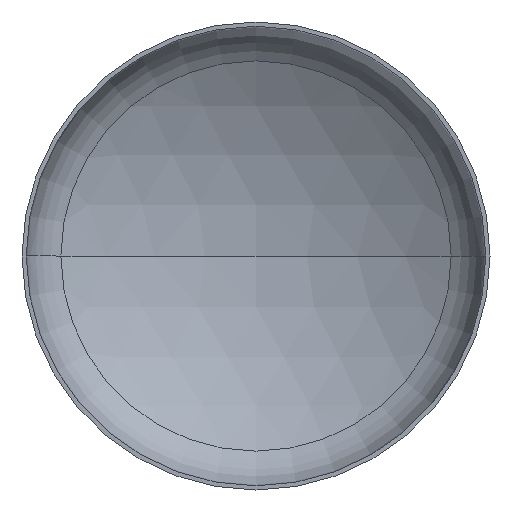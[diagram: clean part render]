
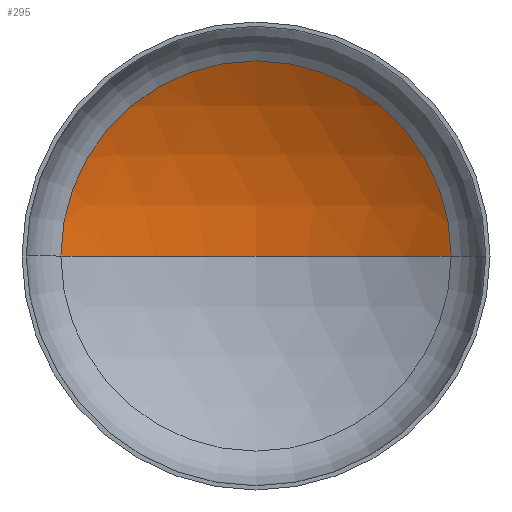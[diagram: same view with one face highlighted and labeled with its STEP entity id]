
A CAD part, front view. The second image highlights one B-rep face of the part: STEP entity #295.
In plain terms, the highlighted spherical face has radius 1760 mm.
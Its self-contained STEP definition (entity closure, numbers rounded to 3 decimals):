
#2 = DIRECTION ( 'NONE',  ( 0., -1., 0. ) ) ;
#5 = CARTESIAN_POINT ( 'NONE',  ( 0., 350.183, 0. ) ) ;
#12 = DIRECTION ( 'NONE',  ( -1., 0., 0. ) ) ;
#18 = DIRECTION ( 'NONE',  ( 0., 0., -1. ) ) ;
#41 = AXIS2_PLACEMENT_3D ( 'NONE', #259, #248, #383 ) ;
#51 = AXIS2_PLACEMENT_3D ( 'NONE', #106, #353, #380 ) ;
#52 = AXIS2_PLACEMENT_3D ( 'NONE', #285, #18, #12 ) ;
#54 = AXIS2_PLACEMENT_3D ( 'NONE', #5, #2, #241 ) ;
#79 = VERTEX_POINT ( 'NONE', #266 ) ;
#93 = ORIENTED_EDGE ( 'NONE', *, *, #104, .F. ) ;
#97 = EDGE_CURVE ( 'NONE', #105, #110, #345, .T. ) ;
#99 = EDGE_CURVE ( 'NONE', #79, #105, #152, .T. ) ;
#104 = EDGE_CURVE ( 'NONE', #79, #110, #231, .T. ) ;
#105 = VERTEX_POINT ( 'NONE', #284 ) ;
#106 = CARTESIAN_POINT ( 'NONE',  ( 0., -1151.941, 0. ) ) ;
#110 = VERTEX_POINT ( 'NONE', #220 ) ;
#117 = EDGE_LOOP ( 'NONE', ( #93, #162, #124 ) ) ;
#124 = ORIENTED_EDGE ( 'NONE', *, *, #97, .T. ) ;
#152 = CIRCLE ( 'NONE', #52, 1760. ) ;
#162 = ORIENTED_EDGE ( 'NONE', *, *, #99, .T. ) ;
#220 = CARTESIAN_POINT ( 'NONE',  ( -917.183, 350.183, 0. ) ) ;
#231 = CIRCLE ( 'NONE', #51, 1760. ) ;
#241 = DIRECTION ( 'NONE',  ( 1., 0., 0. ) ) ;
#248 = DIRECTION ( 'NONE',  ( 0., 0., -1. ) ) ;
#259 = CARTESIAN_POINT ( 'NONE',  ( 0., -1151.941, 0. ) ) ;
#266 = CARTESIAN_POINT ( 'NONE',  ( 0., 608.059, 0. ) ) ;
#284 = CARTESIAN_POINT ( 'NONE',  ( 917.183, 350.183, 0. ) ) ;
#285 = CARTESIAN_POINT ( 'NONE',  ( 0., -1151.941, 0. ) ) ;
#295 = ADVANCED_FACE ( 'NONE', ( #314 ), #382, .F. ) ;
#314 = FACE_OUTER_BOUND ( 'NONE', #117, .T. ) ;
#345 = CIRCLE ( 'NONE', #54, 917.183 ) ;
#353 = DIRECTION ( 'NONE',  ( 0., 0., 1. ) ) ;
#380 = DIRECTION ( 'NONE',  ( 1., 0., 0. ) ) ;
#382 = SPHERICAL_SURFACE ( 'NONE', #41, 1760. ) ;
#383 = DIRECTION ( 'NONE',  ( -1., 0., 0. ) ) ;
